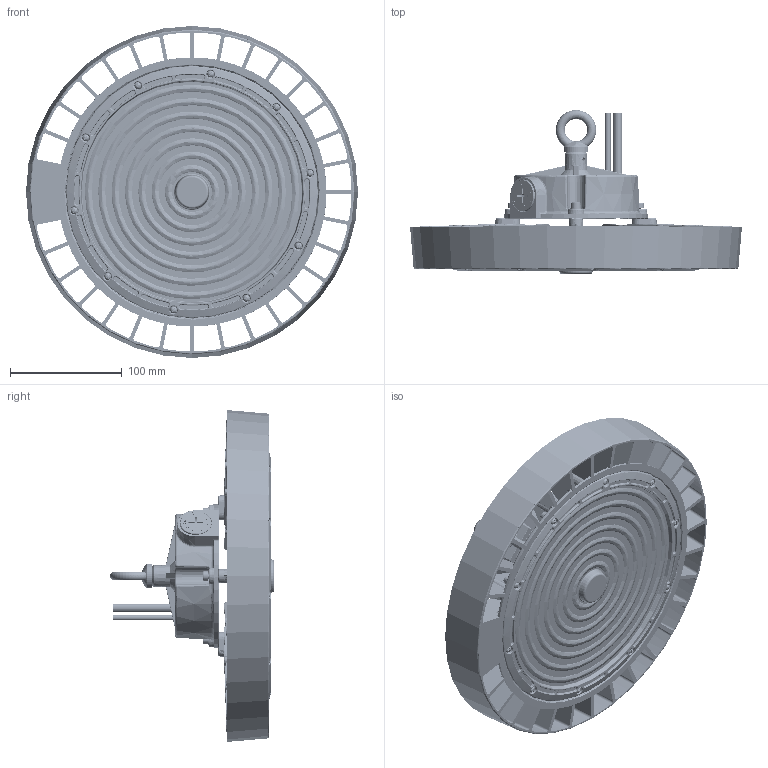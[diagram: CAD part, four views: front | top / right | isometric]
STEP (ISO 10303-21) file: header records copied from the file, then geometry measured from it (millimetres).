
FILE_DESCRIPTION((''),'2;1');
FILE_NAME('UFO-N150W_ASM','2026-04-30T17:01:34',('Administrator'),(''),'CREO PARAMETRIC BY PTC INC, 2024063','CREO PARAMETRIC BY PTC INC, 2024063','');
FILE_SCHEMA(('CONFIG_CONTROL_DESIGN'));
Length unit declared in the file: millimetre
Products named in the file (27): UFO-N150; M5X1_HXQ_2; PG7-12_7; DJ-UFO150W-PCB_4_1; M3CHENTOULUOSI_1_3; M3X8_PAN_TOU_2_2_3; DK226-GJQ_2_1; DK226-90D_1_1; 226-90D-PC-GAI; DK226-GGX_ASM_15_ASM_1_ASM; DK226-GGX_ASM_ASM_1_ASM; NONE-47352; NONE-71452; Q7-_STEP00_ASM; Q7-PHILIPS0001; Q7-0002; Q7-00; Q7-__STEP0001; Q7-0004; Q7-0001_ASM; 3D0001_ASM; M5X20-1_1_1; M5X20-1_1_2; M5X20-1_1_3; M5X20-1_1_ASM; M1000; UFO-N150W_ASM
Assembly tree (45 placements, depth 5):
  UFO-N150W_ASM
    UFO-N150
    M5X1_HXQ_2
    PG7-12_7
    DK226-GGX_ASM_ASM_1_ASM
      DK226-GGX_ASM_15_ASM_1_ASM
        DJ-UFO150W-PCB_4_1
        M3CHENTOULUOSI_1_3  x8
        M3X8_PAN_TOU_2_2_3  x10
        DK226-GJQ_2_1
        DK226-90D_1_1
        226-90D-PC-GAI
    3D0001_ASM
      Q7-0001_ASM
        Q7-_STEP00_ASM
          NONE-47352
          NONE-71452
        Q7-PHILIPS0001
        Q7-0002
        Q7-00
        Q7-__STEP0001
        Q7-0004
    M5X20-1_1_ASM  x4
      M5X20-1_1_1
      M5X20-1_1_2
      M5X20-1_1_3
    M1000
Bounding box: 297.6 x 146.9 x 297.6 mm (x, y, z)
Volume: 706477.9 mm3; surface area: 632812.9 mm2
Topology: 253 solids, 256 shells, 7225 faces, 17807 edges, 10966 vertices
Faces by surface type: plane 2553, cylinder 1517, bspline 1126, torus 941, cone 738, sphere 229, extrusion 61, revolution 60
Entity records: 357157 total; most frequent: CARTESIAN_POINT 212821, ORIENTED_EDGE 30992, DIRECTION 28292, EDGE_CURVE 15505, AXIS2_PLACEMENT_3D 10999, VERTEX_POINT 9638, EDGE_LOOP 6711, FACE_OUTER_BOUND 6444
